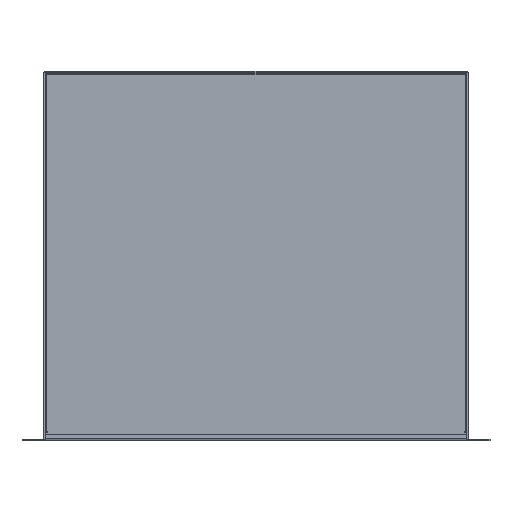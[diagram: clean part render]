
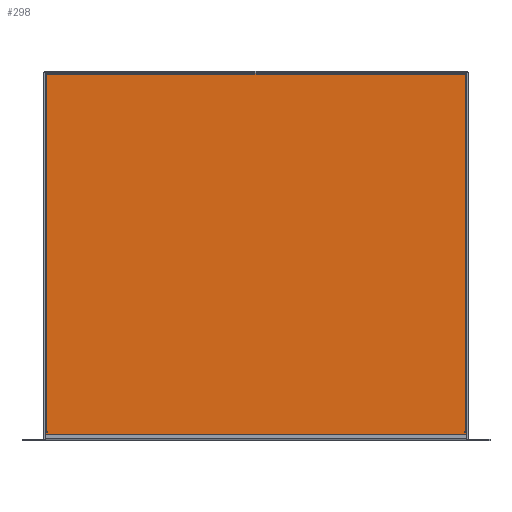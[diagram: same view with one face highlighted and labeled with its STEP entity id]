
A CAD part, top view. The second image highlights one B-rep face of the part: STEP entity #298.
In plain terms, the highlighted planar face has unit normal (0, 0, 1) as drawn and (0, 0, -1) by its records, which use the part's own axes.
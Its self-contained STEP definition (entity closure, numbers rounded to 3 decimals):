
#298 = ADVANCED_FACE( '', ( #598 ), #599, .F. );
#598 = FACE_OUTER_BOUND( '', #904, .T. );
#599 = PLANE( '', #905 );
#904 = EDGE_LOOP( '', ( #1729, #1730, #1731, #1732, #1733, #1734, #1735, #1736, #1737, #1738 ) );
#905 = AXIS2_PLACEMENT_3D( '', #1739, #1740, #1741 );
#1729 = ORIENTED_EDGE( '', *, *, #1915, .F. );
#1730 = ORIENTED_EDGE( '', *, *, #2153, .F. );
#1731 = ORIENTED_EDGE( '', *, *, #2173, .F. );
#1732 = ORIENTED_EDGE( '', *, *, #2174, .T. );
#1733 = ORIENTED_EDGE( '', *, *, #2130, .T. );
#1734 = ORIENTED_EDGE( '', *, *, #2065, .F. );
#1735 = ORIENTED_EDGE( '', *, *, #1862, .F. );
#1736 = ORIENTED_EDGE( '', *, *, #2135, .F. );
#1737 = ORIENTED_EDGE( '', *, *, #2169, .F. );
#1738 = ORIENTED_EDGE( '', *, *, #2175, .F. );
#1739 = CARTESIAN_POINT( '', ( -217.488, -189.89, -1.219 ) );
#1740 = DIRECTION( '', ( 0., 0., 1. ) );
#1741 = DIRECTION( '', ( 1., 0., 0. ) );
#1862 = EDGE_CURVE( '', #2230, #2231, #2232, .T. );
#1915 = EDGE_CURVE( '', #2325, #2326, #2327, .T. );
#2065 = EDGE_CURVE( '', #2231, #2551, #2559, .T. );
#2130 = EDGE_CURVE( '', #2642, #2551, #2644, .F. );
#2135 = EDGE_CURVE( '', #2648, #2230, #2650, .T. );
#2153 = EDGE_CURVE( '', #2425, #2325, #2668, .T. );
#2169 = EDGE_CURVE( '', #2685, #2648, #2687, .F. );
#2173 = EDGE_CURVE( '', #2537, #2425, #2691, .T. );
#2174 = EDGE_CURVE( '', #2537, #2642, #2692, .T. );
#2175 = EDGE_CURVE( '', #2326, #2685, #2693, .T. );
#2230 = VERTEX_POINT( '', #2764 );
#2231 = VERTEX_POINT( '', #2765 );
#2232 = LINE( '', #2766, #2767 );
#2325 = VERTEX_POINT( '', #2895 );
#2326 = VERTEX_POINT( '', #2896 );
#2327 = LINE( '', #2897, #2898 );
#2425 = VERTEX_POINT( '', #3029 );
#2537 = VERTEX_POINT( '', #3185 );
#2551 = VERTEX_POINT( '', #3203 );
#2559 = LINE( '', #3214, #3215 );
#2642 = VERTEX_POINT( '', #3333 );
#2644 = LINE( '', #3336, #3337 );
#2648 = VERTEX_POINT( '', #3342 );
#2650 = LINE( '', #3345, #3346 );
#2668 = LINE( '', #3370, #3371 );
#2685 = VERTEX_POINT( '', #3393 );
#2687 = LINE( '', #3396, #3397 );
#2691 = LINE( '', #3402, #3403 );
#2692 = CIRCLE( '', #3404, 0.381 );
#2693 = CIRCLE( '', #3405, 0.381 );
#2764 = CARTESIAN_POINT( '', ( -217.488, -188.062, -1.219 ) );
#2765 = CARTESIAN_POINT( '', ( 217.488, -188.062, -1.219 ) );
#2766 = CARTESIAN_POINT( '', ( -217.488, -188.062, -1.219 ) );
#2767 = VECTOR( '', #3444, 1000. );
#2895 = CARTESIAN_POINT( '', ( -215.659, 188.062, -1.219 ) );
#2896 = CARTESIAN_POINT( '', ( -215.659, -180.721, -1.219 ) );
#2897 = CARTESIAN_POINT( '', ( -215.659, 188.062, -1.219 ) );
#2898 = VECTOR( '', #3507, 1000. );
#3029 = CARTESIAN_POINT( '', ( 215.659, 188.062, -1.219 ) );
#3185 = CARTESIAN_POINT( '', ( 215.659, -180.721, -1.219 ) );
#3203 = CARTESIAN_POINT( '', ( 217.488, -181.483, -1.219 ) );
#3214 = CARTESIAN_POINT( '', ( 217.488, -189.89, -1.219 ) );
#3215 = VECTOR( '', #3700, 1000. );
#3333 = CARTESIAN_POINT( '', ( 215.659, -181.483, -1.219 ) );
#3336 = CARTESIAN_POINT( '', ( 215.659, -181.483, -1.219 ) );
#3337 = VECTOR( '', #3767, 1000. );
#3342 = CARTESIAN_POINT( '', ( -217.488, -181.483, -1.219 ) );
#3345 = CARTESIAN_POINT( '', ( -217.488, 189.89, -1.219 ) );
#3346 = VECTOR( '', #3770, 1000. );
#3370 = CARTESIAN_POINT( '', ( 217.488, 188.062, -1.219 ) );
#3371 = VECTOR( '', #3780, 1000. );
#3393 = CARTESIAN_POINT( '', ( -215.659, -181.483, -1.219 ) );
#3396 = CARTESIAN_POINT( '', ( -215.659, -181.483, -1.219 ) );
#3397 = VECTOR( '', #3787, 1000. );
#3402 = CARTESIAN_POINT( '', ( 215.659, -180.721, -1.219 ) );
#3403 = VECTOR( '', #3789, 1000. );
#3404 = AXIS2_PLACEMENT_3D( '', #3790, #3791, #3792 );
#3405 = AXIS2_PLACEMENT_3D( '', #3793, #3794, #3795 );
#3444 = DIRECTION( '', ( 1., 0., 0. ) );
#3507 = DIRECTION( '', ( 0., -1., 0. ) );
#3700 = DIRECTION( '', ( 0., 1., 0. ) );
#3767 = DIRECTION( '', ( -1., 0., 0. ) );
#3770 = DIRECTION( '', ( 0., -1., 0. ) );
#3780 = DIRECTION( '', ( -1., 0., 0. ) );
#3787 = DIRECTION( '', ( 1., 0., 0. ) );
#3789 = DIRECTION( '', ( 0., 1., 0. ) );
#3790 = CARTESIAN_POINT( '', ( 215.659, -181.102, -1.219 ) );
#3791 = DIRECTION( '', ( 0., 0., 1. ) );
#3792 = DIRECTION( '', ( 1., 0., 0. ) );
#3793 = CARTESIAN_POINT( '', ( -215.659, -181.102, -1.219 ) );
#3794 = DIRECTION( '', ( 0., 0., -1. ) );
#3795 = DIRECTION( '', ( -1., 0., 0. ) );
